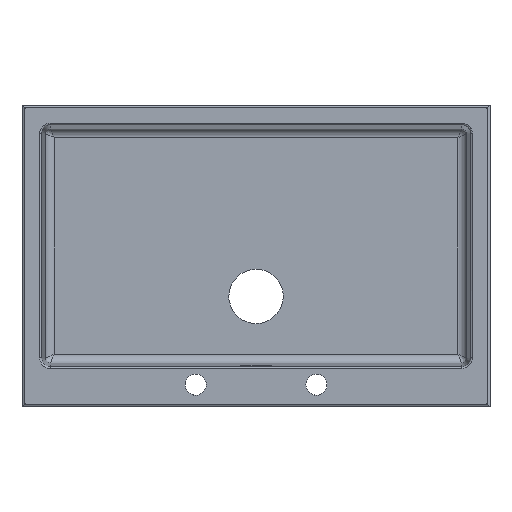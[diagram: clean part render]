
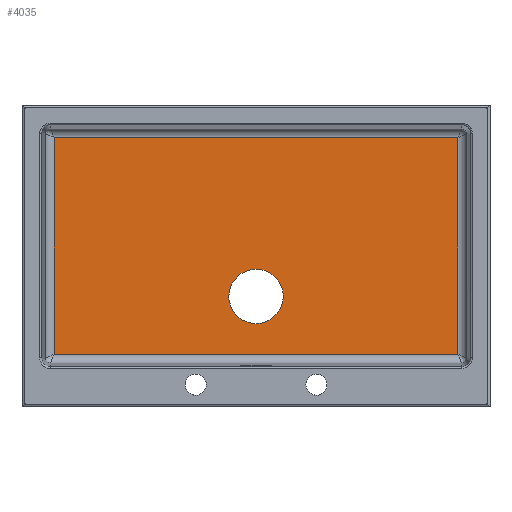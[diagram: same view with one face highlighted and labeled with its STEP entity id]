
A CAD part, top view. The second image highlights one B-rep face of the part: STEP entity #4035.
In plain terms, the highlighted planar face has unit normal (0, 0, 1).
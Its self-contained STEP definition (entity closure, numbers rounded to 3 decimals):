
#3629=CARTESIAN_POINT('Vertex',(334.055,54.219,-194.1)) ;
#3632=CARTESIAN_POINT('Line Origine',(0.,54.219,-194.1)) ;
#3636=CARTESIAN_POINT('Vertex',(-334.055,54.219,-194.1)) ;
#3947=CARTESIAN_POINT('Axis2P3D Location',(-340.35,32.924,-194.1)) ;
#3952=CARTESIAN_POINT('Line Origine',(334.055,32.924,-194.1)) ;
#3956=CARTESIAN_POINT('Vertex',(334.055,412.629,-194.1)) ;
#3959=CARTESIAN_POINT('Line Origine',(-340.35,412.629,-194.1)) ;
#3963=CARTESIAN_POINT('Vertex',(-334.055,412.629,-194.1)) ;
#3966=CARTESIAN_POINT('Line Origine',(-334.055,32.924,-194.1)) ;
#3978=CARTESIAN_POINT('Control Point',(-45.,150.,-194.1)) ;
#3979=CARTESIAN_POINT('Control Point',(-45.,157.069,-194.1)) ;
#3980=CARTESIAN_POINT('Control Point',(-43.612,164.137,-194.1)) ;
#3981=CARTESIAN_POINT('Control Point',(-40.835,170.842,-194.1)) ;
#3982=CARTESIAN_POINT('Control Point',(-32.801,182.801,-194.1)) ;
#3983=CARTESIAN_POINT('Control Point',(-20.842,190.835,-194.1)) ;
#3984=CARTESIAN_POINT('Control Point',(-14.137,193.612,-194.1)) ;
#3985=CARTESIAN_POINT('Control Point',(-7.069,195.,-194.1)) ;
#3986=CARTESIAN_POINT('Control Point',(0.,195.,-194.1)) ;
#3987=CARTESIAN_POINT('Vertex',(-45.,150.,-194.1)) ;
#3989=CARTESIAN_POINT('Vertex',(0.,195.,-194.1)) ;
#3993=CARTESIAN_POINT('Control Point',(0.,195.,-194.1)) ;
#3994=CARTESIAN_POINT('Control Point',(7.069,195.,-194.1)) ;
#3995=CARTESIAN_POINT('Control Point',(14.137,193.612,-194.1)) ;
#3996=CARTESIAN_POINT('Control Point',(20.842,190.835,-194.1)) ;
#3997=CARTESIAN_POINT('Control Point',(32.801,182.801,-194.1)) ;
#3998=CARTESIAN_POINT('Control Point',(40.835,170.842,-194.1)) ;
#3999=CARTESIAN_POINT('Control Point',(43.612,164.137,-194.1)) ;
#4000=CARTESIAN_POINT('Control Point',(45.,157.069,-194.1)) ;
#4001=CARTESIAN_POINT('Control Point',(45.,150.,-194.1)) ;
#4002=CARTESIAN_POINT('Vertex',(45.,150.,-194.1)) ;
#4006=CARTESIAN_POINT('Control Point',(45.,150.,-194.1)) ;
#4007=CARTESIAN_POINT('Control Point',(45.,142.931,-194.1)) ;
#4008=CARTESIAN_POINT('Control Point',(43.612,135.863,-194.1)) ;
#4009=CARTESIAN_POINT('Control Point',(40.835,129.158,-194.1)) ;
#4010=CARTESIAN_POINT('Control Point',(32.801,117.199,-194.1)) ;
#4011=CARTESIAN_POINT('Control Point',(20.842,109.165,-194.1)) ;
#4012=CARTESIAN_POINT('Control Point',(14.137,106.388,-194.1)) ;
#4013=CARTESIAN_POINT('Control Point',(7.069,105.,-194.1)) ;
#4014=CARTESIAN_POINT('Control Point',(0.,105.,-194.1)) ;
#4015=CARTESIAN_POINT('Vertex',(0.,105.,-194.1)) ;
#4019=CARTESIAN_POINT('Control Point',(0.,105.,-194.1)) ;
#4020=CARTESIAN_POINT('Control Point',(-7.069,105.,-194.1)) ;
#4021=CARTESIAN_POINT('Control Point',(-14.137,106.388,-194.1)) ;
#4022=CARTESIAN_POINT('Control Point',(-20.842,109.165,-194.1)) ;
#4023=CARTESIAN_POINT('Control Point',(-32.801,117.199,-194.1)) ;
#4024=CARTESIAN_POINT('Control Point',(-40.835,129.158,-194.1)) ;
#4025=CARTESIAN_POINT('Control Point',(-43.612,135.863,-194.1)) ;
#4026=CARTESIAN_POINT('Control Point',(-45.,142.931,-194.1)) ;
#4027=CARTESIAN_POINT('Control Point',(-45.,150.,-194.1)) ;
#3633=DIRECTION('Vector Direction',(1.,0.,0.)) ;
#3948=DIRECTION('Axis2P3D Direction',(0.,-0.,-1.)) ;
#3949=DIRECTION('Axis2P3D XDirection',(1.,0.,-0.)) ;
#3953=DIRECTION('Vector Direction',(0.,-1.,0.)) ;
#3960=DIRECTION('Vector Direction',(1.,0.,0.)) ;
#3967=DIRECTION('Vector Direction',(0.,-1.,0.)) ;
#3950=AXIS2_PLACEMENT_3D('Plane Axis2P3D',#3947,#3948,#3949) ;
#3972=ORIENTED_EDGE('',*,*,#3638,.F.) ;
#3973=ORIENTED_EDGE('',*,*,#3958,.F.) ;
#3974=ORIENTED_EDGE('',*,*,#3965,.F.) ;
#3975=ORIENTED_EDGE('',*,*,#3970,.F.) ;
#4030=ORIENTED_EDGE('',*,*,#3991,.T.) ;
#4031=ORIENTED_EDGE('',*,*,#4004,.T.) ;
#4032=ORIENTED_EDGE('',*,*,#4017,.T.) ;
#4033=ORIENTED_EDGE('',*,*,#4028,.T.) ;
#4034=FACE_BOUND('',#4029,.T.) ;
#3634=VECTOR('Line Direction',#3633,1.) ;
#3954=VECTOR('Line Direction',#3953,1.) ;
#3961=VECTOR('Line Direction',#3960,1.) ;
#3968=VECTOR('Line Direction',#3967,1.) ;
#4035=ADVANCED_FACE('Mira',(#3976,#4034),#3951,.F.) ;
#3977=B_SPLINE_CURVE_WITH_KNOTS('',5,(#3978,#3979,#3980,#3981,#3982,#3983,#3984,#3985,#3986),.UNSPECIFIED.,.F.,.U.,(6,3,6),(141.372,176.715,212.058),.UNSPECIFIED.) ;
#3992=B_SPLINE_CURVE_WITH_KNOTS('',5,(#3993,#3994,#3995,#3996,#3997,#3998,#3999,#4000,#4001),.UNSPECIFIED.,.F.,.U.,(6,3,6),(212.058,247.4,282.743),.UNSPECIFIED.) ;
#4005=B_SPLINE_CURVE_WITH_KNOTS('',5,(#4006,#4007,#4008,#4009,#4010,#4011,#4012,#4013,#4014),.UNSPECIFIED.,.F.,.U.,(6,3,6),(0.,35.343,70.686),.UNSPECIFIED.) ;
#4018=B_SPLINE_CURVE_WITH_KNOTS('',5,(#4019,#4020,#4021,#4022,#4023,#4024,#4025,#4026,#4027),.UNSPECIFIED.,.F.,.U.,(6,3,6),(70.686,106.029,141.372),.UNSPECIFIED.) ;
#3638=EDGE_CURVE('',#3630,#3637,#3635,.F.) ;
#3958=EDGE_CURVE('',#3957,#3630,#3955,.T.) ;
#3965=EDGE_CURVE('',#3964,#3957,#3962,.T.) ;
#3970=EDGE_CURVE('',#3637,#3964,#3969,.F.) ;
#3991=EDGE_CURVE('',#3988,#3990,#3977,.T.) ;
#4004=EDGE_CURVE('',#3990,#4003,#3992,.T.) ;
#4017=EDGE_CURVE('',#4003,#4016,#4005,.T.) ;
#4028=EDGE_CURVE('',#4016,#3988,#4018,.T.) ;
#3971=EDGE_LOOP('',(#3972,#3973,#3974,#3975)) ;
#4029=EDGE_LOOP('',(#4030,#4031,#4032,#4033)) ;
#3976=FACE_OUTER_BOUND('',#3971,.T.) ;
#3635=LINE('Line',#3632,#3634) ;
#3955=LINE('Line',#3952,#3954) ;
#3962=LINE('Line',#3959,#3961) ;
#3969=LINE('Line',#3966,#3968) ;
#3951=PLANE('',#3950) ;
#3630=VERTEX_POINT('',#3629) ;
#3637=VERTEX_POINT('',#3636) ;
#3957=VERTEX_POINT('',#3956) ;
#3964=VERTEX_POINT('',#3963) ;
#3988=VERTEX_POINT('',#3987) ;
#3990=VERTEX_POINT('',#3989) ;
#4003=VERTEX_POINT('',#4002) ;
#4016=VERTEX_POINT('',#4015) ;
